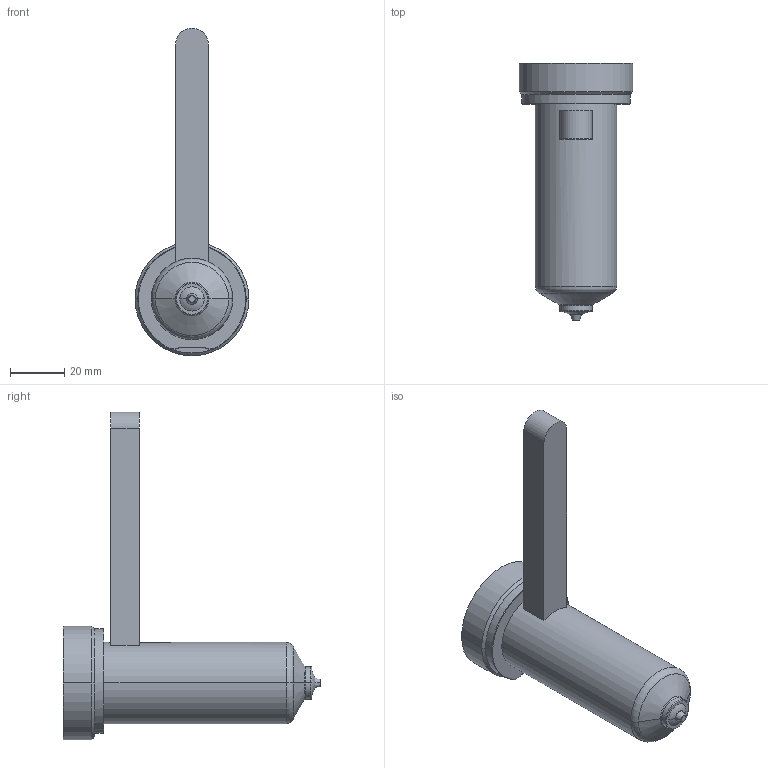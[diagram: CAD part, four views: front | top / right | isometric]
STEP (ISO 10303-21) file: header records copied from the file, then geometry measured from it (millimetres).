
FILE_DESCRIPTION((''),'2;1');
FILE_NAME('EO08_VG-BL_STD_080_COT','2024-02-19T13:05:03',('sundharh'),(''),'CREO PARAMETRIC BY PTC INC, 2023154','CREO PARAMETRIC BY PTC INC, 2023154','');
FILE_SCHEMA(('CONFIG_CONTROL_DESIGN'));
Length unit declared in the file: millimetre
Products named in the file (1): EO08_VG-BL_STD_080_COT
Bounding box: 42 x 95 x 121 mm (x, y, z)
Volume: 81791.7 mm3; surface area: 15084.7 mm2
Topology: 1 solids, 1 shells, 38 faces, 81 edges, 48 vertices
Faces by surface type: cylinder 11, plane 10, torus 9, cone 6, sphere 2
Entity records: 1135 total; most frequent: CARTESIAN_POINT 247, DIRECTION 199, ORIENTED_EDGE 162, AXIS2_PLACEMENT_3D 86, EDGE_CURVE 81, VERTEX_POINT 48, CIRCLE 48, EDGE_LOOP 41
